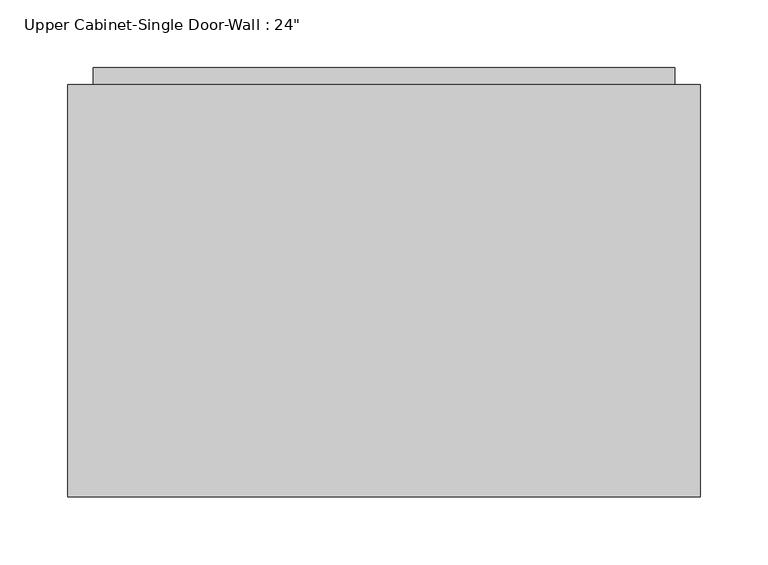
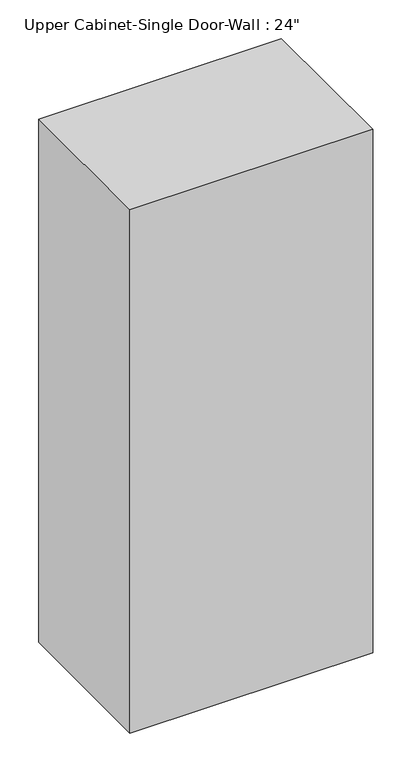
"""IFC4 building model written with IfcOpenShell, lengths in millimetres: furniture geometry."""

from ifc_helpers import new_model, si_unit, frame, origin, place, context, project, spatial, polyline, outline, extrude, faceted_brep, source, transform, mapped, element, save


def furniture_117c79e4(model_context):
    return source(origin(), model_context, "Body", "SolidModel", [
        faceted_brep([(-209.3614367, 76.2, 2133.6), (-209.3614367, 76.2, 1066.8), (258.3711628, 76.2, 1066.8), (258.3711628, 76.2, 2133.6), (-209.3614367, 381.0, 2133.6), (258.3711628, 381.0, 2133.6), (258.3711628, 381.0, 1066.8), (-209.3614367, 381.0, 1066.8), (-190.3114367, 381.0, 2114.55), (-190.3114367, 381.0, 1085.85), (239.3211628, 381.0, 1085.85), (239.3211628, 381.0, 2114.55), (239.3211628, 95.25, 2114.55), (-190.3114367, 95.25, 2114.55), (239.3211628, 95.25, 1085.85), (-190.3114367, 95.25, 1085.85)], [[[0, 1, 2, 3]], [[4, 5, 6, 7], [8, 9, 10, 11]], [[1, 0, 4, 7]], [[2, 1, 7, 6]], [[3, 2, 6, 5]], [[0, 3, 5, 4]], [[8, 11, 12, 13]], [[11, 10, 14, 12]], [[10, 9, 15, 14]], [[9, 8, 13, 15]], [[13, 12, 14, 15]]]),
        extrude(outline(polyline([(-190.3114367, 393.7), (239.3211628, 393.7), (239.3211628, 361.95), (-190.3114367, 361.95), (-190.3114367, 393.7)])), frame((0.0, 0.0, 1085.85), z_axis=(0.0, 0.0, 1.0), x_axis=(1.0, 0.0, 0.0)), (0.0, 0.0, 1.0), 1028.7),
    ])


if __name__ == "__main__":
    model = new_model("IFC4")
    model_context = context("Model", 3, world=origin())
    ifc_project = project(units=[si_unit("LENGTHUNIT", "METRE", prefix="MILLI")], contexts=[model_context])
    site = spatial("IfcSite", under=ifc_project)
    building = spatial("IfcBuilding", under=site)
    placement = place(None, origin())
    furniture_shape = furniture_117c79e4(model_context)
    element("IfcFurniture", 1, ObjectType="Upper Cabinet-Single Door-Wall : 24\"", at=placement, inside=building, context=model_context, shape_type="MappedRepresentation", body=[
        mapped(furniture_shape, transform((0.0, 0.0, 0.0), x_axis=(1.0, 0.0, 0.0), y_axis=(0.0, 1.0, 0.0), z_axis=(0.0, 0.0, 1.0))),
    ])
    save(model, "model.ifc")
